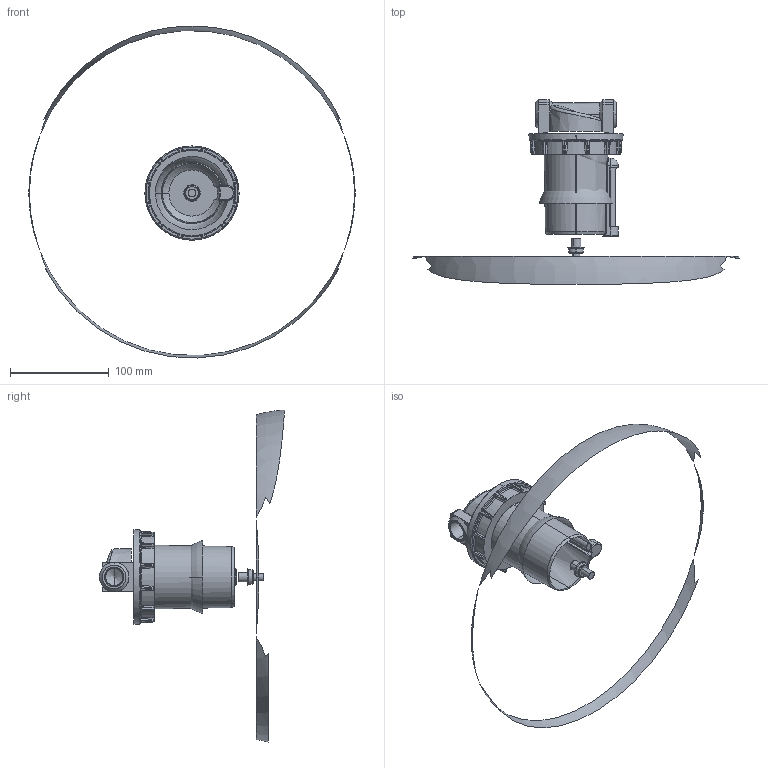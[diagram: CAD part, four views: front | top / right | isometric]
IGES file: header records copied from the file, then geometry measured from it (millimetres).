
Start section: SolidWorks IGES file using analytic representation for surfaces
Global section: file name: D:\Custom\3D繪製\FRL\F602\F602W-04#YB#.IGS,1; native system: 5HSolidWorks 2014; preprocessor: SolidWorks 2014; author: Chieh_Lu; date: 160115.020149; units: millimetre
Bounding box: 331.28 x 188.04 x 337.05 mm (x, y, z)
Surface area: 71719.2 mm2 (no closed solid volume)
Topology: 0 solids, 0 shells, 350 faces, 4109 edges, 4104 vertices
Faces by surface type: bspline 221, revolution 129
